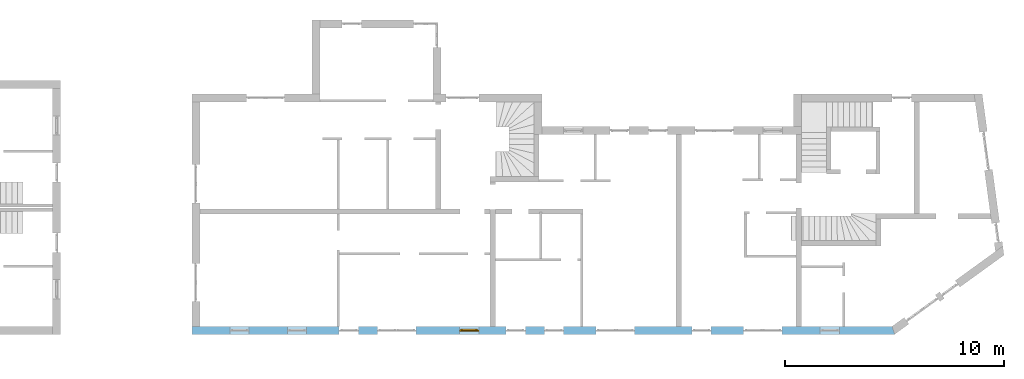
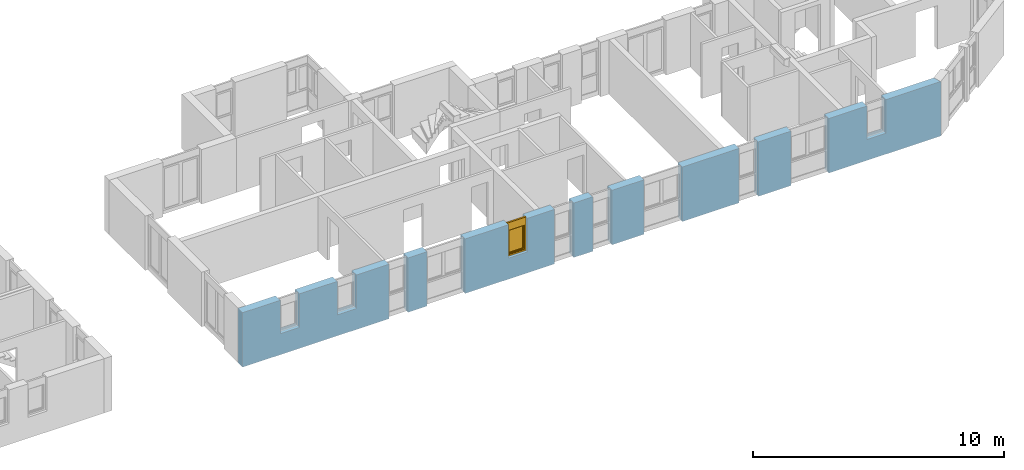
# One storey, part 30 of 42: 1 window, 11 openings, plus 1 element that does not belong to this part.
"""IFC2X3 building model written with IfcOpenShell, lengths in millimetres."""

from ifc_helpers import new_model, entity, si_unit, converted_unit, frame, frame_2d, origin, origin_with_axes, place, context, subcontext, project, spatial, polyline, rectangle, outline, extrude, faceted_brep, material, layer, layer_set, layer_usage, type_object, element, fill, save


model = new_model("IFC2X3")

# Units and contexts
model_context = context("Model", 3, precision=1e-05, world=origin())
body_context = subcontext(model_context, "Body", "Model", "MODEL_VIEW")
ifc_project = project(units=[si_unit("LENGTHUNIT", "METRE", prefix="MILLI"), converted_unit("PLANEANGLEUNIT", "DEGREE", entity("IfcPlaneAngleMeasure", 0.0174532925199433), si_unit("PLANEANGLEUNIT", "RADIAN"), dimensions=[0, 0, 0, 0, 0, 0, 0]), si_unit("AREAUNIT", "SQUARE_METRE"), si_unit("VOLUMEUNIT", "CUBIC_METRE")], contexts=[model_context])

# Building, storey
building_placement = place(None, origin())
building = spatial("IfcBuilding", under=ifc_project, at=building_placement, Name="Gebäude", CompositionType="ELEMENT")
storey_placement = place(building_placement, frame((0.0, 0.0, 2730.0), z_axis=(0.0, 0.0, 1.0), x_axis=(1.0, 0.0, 0.0)))
storey = spatial("IfcBuildingStorey", under=building, at=storey_placement, Name="OG.- Grundriss", CompositionType="ELEMENT", Elevation=2730.0)

# Wall, openings, window
ifc_material_1 = material(Name="Poroton")
ifc_layer = layer(ifc_material_1, 365.0000000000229)
ifc_layer_set = layer_set([ifc_layer])
ifc_layer_usage = layer_usage(ifc_layer_set, "AXIS2", "POSITIVE", 0.0)
wall_placement = place(storey_placement, frame((148357.7928067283, 125274.8877324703, 0.0), z_axis=(0.0, 0.0, 1.0), x_axis=(1.0, -2.749268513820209e-11, 0.0)))
wall = element("IfcWallStandardCase", 1, at=wall_placement, inside=storey, material=ifc_layer_usage, Name="<Unnamed Element>", context=body_context, shape_type="SweptSolid", body=[
    extrude(outline(polyline([(0.0, 0.0), (32144.99999877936, 0.0), (32026.74038666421, 365.0000000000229), (-1.003483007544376e-08, 365.0), (0.0, 0.0)])), origin_with_axes(), (0.0, 0.0, 1.0), 2650.0),
])
opening_1_placement = place(wall_placement, frame((22865.29648749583, -9.393166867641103e-11, 0.0), z_axis=(0.0, 1.0, 0.0), x_axis=(0.0, 0.0, 1.0)))
element("IfcOpeningElement", 2, at=opening_1_placement, cuts=wall, Name="Fensteröffnung", ObjectType="Opening", context=body_context, shape_type="SweptSolid", body=[
    extrude(rectangle(XDim=2650.0, YDim=885.0, at=frame_2d((1325.0, 442.5), x_axis=(1.0, 0.0))), origin_with_axes(), (0.0, 0.0, 1.0), 365.0000000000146),
])
opening_2_placement = place(wall_placement, frame((25240.29648749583, -1.030266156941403e-10, 0.0), z_axis=(0.0, 1.0, 0.0), x_axis=(0.0, 0.0, 1.0)))
element("IfcOpeningElement", 3, at=opening_2_placement, cuts=wall, Name="Fensteröffnung", ObjectType="Opening", context=body_context, shape_type="SweptSolid", body=[
    extrude(rectangle(XDim=2650.0, YDim=1760.0, at=frame_2d((1325.0, 880.0), x_axis=(1.0, 0.0))), origin_with_axes(), (0.0, 0.0, 1.0), 365.0000000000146),
])
opening_3_placement = place(wall_placement, frame((14365.26291869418, -5.847463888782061e-11, 0.0), z_axis=(0.0, 1.0, 0.0), x_axis=(0.0, 0.0, 1.0)))
element("IfcOpeningElement", 4, at=opening_3_placement, cuts=wall, Name="Fensteröffnung", ObjectType="Opening", context=body_context, shape_type="SweptSolid", body=[
    extrude(rectangle(XDim=2650.0, YDim=885.0, at=frame_2d((1325.0, 442.5), x_axis=(1.0, 0.0))), origin_with_axes(), (0.0, 0.0, 1.0), 365.0000000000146),
])
opening_4_placement = place(wall_placement, frame((16123.92212975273, -7.146586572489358e-11, 0.0), z_axis=(0.0, 1.0, 0.0), x_axis=(0.0, 0.0, 1.0)))
element("IfcOpeningElement", 5, at=opening_4_placement, cuts=wall, Name="Fensteröffnung", ObjectType="Opening", context=body_context, shape_type="SweptSolid", body=[
    extrude(rectangle(XDim=2650.0, YDim=885.0, at=frame_2d((1325.0, 442.5), x_axis=(1.0, 0.0))), origin_with_axes(), (0.0, 0.0, 1.0), 365.0000000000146),
])
opening_5_placement = place(wall_placement, frame((6739.999999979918, -3.114109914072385e-11, 0.0), z_axis=(0.0, 1.0, 0.0), x_axis=(0.0, 0.0, 1.0)))
element("IfcOpeningElement", 6, at=opening_5_placement, cuts=wall, Name="Fensteröffnung", ObjectType="Opening", context=body_context, shape_type="SweptSolid", body=[
    extrude(rectangle(XDim=2650.0, YDim=885.0, at=frame_2d((1325.0, 442.5), x_axis=(1.0, 0.0))), origin_with_axes(), (0.0, 0.0, 1.0), 365.0000000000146),
])
opening_6_placement = place(wall_placement, frame((8489.999999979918, -3.477907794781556e-11, 0.0), z_axis=(0.0, 1.0, 0.0), x_axis=(0.0, 0.0, 1.0)))
element("IfcOpeningElement", 7, at=opening_6_placement, cuts=wall, Name="Fensteröffnung", ObjectType="Opening", context=body_context, shape_type="SweptSolid", body=[
    extrude(rectangle(XDim=2650.0, YDim=1760.0, at=frame_2d((1325.0, 880.0), x_axis=(1.0, 0.0))), origin_with_axes(), (0.0, 0.0, 1.0), 365.0000000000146),
])
opening_7_placement = place(wall_placement, frame((1740.0, -3.114109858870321e-11, 1020.0), z_axis=(0.0, 1.0, 0.0), x_axis=(0.0, 0.0, 1.0)))
element("IfcOpeningElement", 8, at=opening_7_placement, cuts=wall, Name="Fensteröffnung", ObjectType="Opening", context=body_context, shape_type="SweptSolid", body=[
    extrude(rectangle(XDim=1630.0, YDim=885.0, at=frame_2d((815.0, 442.5), x_axis=(1.0, 0.0))), origin_with_axes(), (0.0, 0.0, 1.0), 365.0000000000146),
])
opening_8_placement = place(wall_placement, frame((4365.0, -7.494236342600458e-12, 1020.0), z_axis=(0.0, 1.0, 0.0), x_axis=(0.0, 0.0, 1.0)))
element("IfcOpeningElement", 9, at=opening_8_placement, cuts=wall, Name="Fensteröffnung", ObjectType="Opening", context=body_context, shape_type="SweptSolid", body=[
    extrude(rectangle(XDim=1630.0, YDim=885.0, at=frame_2d((815.0, 442.5), x_axis=(1.0, 0.0))), origin_with_axes(), (0.0, 0.0, 1.0), 365.0000000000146),
])
opening_9_placement = place(wall_placement, frame((12240.0, -5.296897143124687e-11, 1020.0), z_axis=(0.0, 1.0, 0.0), x_axis=(0.0, 0.0, 1.0)))
opening_9 = element("IfcOpeningElement", 10, at=opening_9_placement, cuts=wall, Name="Fensteröffnung", ObjectType="Opening", context=body_context, shape_type="SweptSolid", body=[
    extrude(rectangle(XDim=1630.0, YDim=885.0, at=frame_2d((815.0, 442.5), x_axis=(1.0, 0.0))), origin_with_axes(), (0.0, 0.0, 1.0), 365.0000000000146),
])
opening_10_placement = place(wall_placement, frame((18490.51063065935, -4.984640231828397e-11, 0.0), z_axis=(0.0, 1.0, 0.0), x_axis=(0.0, 0.0, 1.0)))
element("IfcOpeningElement", 11, at=opening_10_placement, cuts=wall, Name="Fensteröffnung", ObjectType="Opening", context=body_context, shape_type="SweptSolid", body=[
    extrude(rectangle(XDim=2650.0, YDim=1760.0, at=frame_2d((1325.0, 880.0), x_axis=(1.0, 0.0))), origin_with_axes(), (0.0, 0.0, 1.0), 365.0000000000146),
])
opening_11_placement = place(wall_placement, frame((28740.29648749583, -1.103025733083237e-10, 1020.0), z_axis=(0.0, 1.0, 0.0), x_axis=(0.0, 0.0, 1.0)))
element("IfcOpeningElement", 12, at=opening_11_placement, cuts=wall, Name="Fensteröffnung", ObjectType="Opening", context=body_context, shape_type="SweptSolid", body=[
    extrude(rectangle(XDim=1630.0, YDim=885.0, at=frame_2d((815.0, 442.5), x_axis=(1.0, 0.0))), origin_with_axes(), (0.0, 0.0, 1.0), 365.0000000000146),
])
ifc_material_2 = material()
window_style = type_object("IfcWindowStyle", Name="Fenster", ConstructionType="NOTDEFINED", OperationType="USERDEFINED", ParameterTakesPrecedence=False, Sizeable=False)
window_placement = place(opening_9_placement, frame((0.0, 0.0, 0.0), z_axis=(1.0, 0.0, 0.0), x_axis=(0.0, 1.0, 0.0)))
window = element("IfcWindow", 13, at=window_placement, inside=storey, type_object=window_style, material=ifc_material_2, Name="Fenster", OverallHeight=1630.0, OverallWidth=885.0, context=body_context, shape_type="Brep", body=[
    faceted_brep([(-1.221113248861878e-08, 200.000000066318, 1630.0), (-1.221113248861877e-08, 200.0000000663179, -2.449293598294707e-15), (69.99999998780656, 200.0000000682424, -2.449293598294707e-15), (69.99999998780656, 200.0000000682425, 1630.0), (-1.001171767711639e-08, 120.0000000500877, 2.449293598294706e-15), (-1.00117176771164e-08, 120.0000000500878, 1630.0), (69.99999999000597, 120.0000000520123, 1630.0), (69.99999999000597, 120.0000000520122, 2.449293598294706e-15), (-1.221113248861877e-08, 200.0000000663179, -2.449293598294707e-15), (-1.221113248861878e-08, 200.000000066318, 1630.0), (-1.00117176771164e-08, 120.0000000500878, 1630.0), (-1.001171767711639e-08, 120.0000000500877, 2.449293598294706e-15), (69.99999998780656, 200.0000000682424, -2.449293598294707e-15), (-1.221113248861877e-08, 200.0000000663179, -2.449293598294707e-15), (-1.001171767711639e-08, 120.0000000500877, 2.449293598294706e-15), (69.99999999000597, 120.0000000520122, 2.449293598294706e-15), (69.99999998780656, 200.0000000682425, 1630.0), (69.99999998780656, 200.0000000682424, -2.449293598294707e-15), (69.99999999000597, 120.0000000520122, 2.449293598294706e-15), (69.99999999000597, 120.0000000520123, 1630.0), (-1.221113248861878e-08, 200.000000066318, 1630.0), (69.99999998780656, 200.0000000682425, 1630.0), (69.99999999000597, 120.0000000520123, 1630.0), (-1.00117176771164e-08, 120.0000000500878, 1630.0)], [[[0, 1, 2, 3]], [[4, 5, 6, 7]], [[8, 9, 10, 11]], [[12, 13, 14, 15]], [[16, 17, 18, 19]], [[20, 21, 22, 23]]], orient=[[False], [False], [False], [False], [False], [False]]),
    faceted_brep([(814.9999999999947, 200.0000000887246, 1630.0), (814.9999999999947, 200.0000000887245, -2.449293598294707e-15), (885.0000000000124, 200.0000000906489, -2.449293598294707e-15), (885.0000000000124, 200.0000000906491, 1630.0), (815.000000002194, 120.0000000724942, 2.449293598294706e-15), (815.000000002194, 120.0000000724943, 1630.0), (885.0000000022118, 120.0000000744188, 1630.0), (885.0000000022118, 120.0000000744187, 2.449293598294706e-15), (814.9999999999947, 200.0000000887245, -2.449293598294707e-15), (814.9999999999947, 200.0000000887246, 1630.0), (815.000000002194, 120.0000000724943, 1630.0), (815.000000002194, 120.0000000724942, 2.449293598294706e-15), (885.0000000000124, 200.0000000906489, -2.449293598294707e-15), (814.9999999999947, 200.0000000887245, -2.449293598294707e-15), (815.000000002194, 120.0000000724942, 2.449293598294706e-15), (885.0000000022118, 120.0000000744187, 2.449293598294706e-15), (885.0000000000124, 200.0000000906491, 1630.0), (885.0000000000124, 200.0000000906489, -2.449293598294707e-15), (885.0000000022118, 120.0000000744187, 2.449293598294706e-15), (885.0000000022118, 120.0000000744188, 1630.0), (814.9999999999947, 200.0000000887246, 1630.0), (885.0000000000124, 200.0000000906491, 1630.0), (885.0000000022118, 120.0000000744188, 1630.0), (815.000000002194, 120.0000000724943, 1630.0)], [[[0, 1, 2, 3]], [[4, 5, 6, 7]], [[8, 9, 10, 11]], [[12, 13, 14, 15]], [[16, 17, 18, 19]], [[20, 21, 22, 23]]], orient=[[False], [False], [False], [False], [False], [False]]),
    faceted_brep([(69.99999998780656, 200.0000000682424, 69.99999999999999), (69.99999998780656, 200.0000000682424, -2.449293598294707e-15), (814.9999999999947, 200.0000000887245, -2.449293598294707e-15), (814.9999999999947, 200.0000000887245, 69.99999999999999), (69.99999999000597, 120.0000000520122, 2.449293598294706e-15), (69.99999999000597, 120.0000000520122, 69.99999999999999), (815.000000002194, 120.0000000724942, 69.99999999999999), (815.000000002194, 120.0000000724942, 2.449293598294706e-15), (69.99999998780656, 200.0000000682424, -2.449293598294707e-15), (69.99999998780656, 200.0000000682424, 69.99999999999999), (69.99999999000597, 120.0000000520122, 69.99999999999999), (69.99999999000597, 120.0000000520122, 2.449293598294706e-15), (814.9999999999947, 200.0000000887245, -2.449293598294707e-15), (69.99999998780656, 200.0000000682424, -2.449293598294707e-15), (69.99999999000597, 120.0000000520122, 2.449293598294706e-15), (815.000000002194, 120.0000000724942, 2.449293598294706e-15), (814.9999999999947, 200.0000000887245, 69.99999999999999), (814.9999999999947, 200.0000000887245, -2.449293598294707e-15), (815.000000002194, 120.0000000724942, 2.449293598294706e-15), (815.000000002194, 120.0000000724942, 69.99999999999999), (69.99999998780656, 200.0000000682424, 69.99999999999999), (814.9999999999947, 200.0000000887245, 69.99999999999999), (815.000000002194, 120.0000000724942, 69.99999999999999), (69.99999999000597, 120.0000000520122, 69.99999999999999)], [[[0, 1, 2, 3]], [[4, 5, 6, 7]], [[8, 9, 10, 11]], [[12, 13, 14, 15]], [[16, 17, 18, 19]], [[20, 21, 22, 23]]], orient=[[False], [False], [False], [False], [False], [False]]),
    faceted_brep([(69.99999998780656, 200.0000000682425, 1630.0), (69.99999998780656, 200.0000000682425, 1260.0), (814.9999999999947, 200.0000000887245, 1260.0), (814.9999999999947, 200.0000000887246, 1630.0), (69.99999999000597, 120.0000000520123, 1260.0), (69.99999999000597, 120.0000000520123, 1630.0), (815.000000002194, 120.0000000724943, 1630.0), (815.000000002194, 120.0000000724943, 1260.0), (69.99999998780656, 200.0000000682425, 1260.0), (69.99999998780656, 200.0000000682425, 1630.0), (69.99999999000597, 120.0000000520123, 1630.0), (69.99999999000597, 120.0000000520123, 1260.0), (814.9999999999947, 200.0000000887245, 1260.0), (69.99999998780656, 200.0000000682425, 1260.0), (69.99999999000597, 120.0000000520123, 1260.0), (815.000000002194, 120.0000000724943, 1260.0), (814.9999999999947, 200.0000000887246, 1630.0), (814.9999999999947, 200.0000000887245, 1260.0), (815.000000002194, 120.0000000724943, 1260.0), (815.000000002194, 120.0000000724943, 1630.0), (69.99999998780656, 200.0000000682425, 1630.0), (814.9999999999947, 200.0000000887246, 1630.0), (815.000000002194, 120.0000000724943, 1630.0), (69.99999999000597, 120.0000000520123, 1630.0)], [[[0, 1, 2, 3]], [[4, 5, 6, 7]], [[8, 9, 10, 11]], [[12, 13, 14, 15]], [[16, 17, 18, 19]], [[20, 21, 22, 23]]], orient=[[False], [False], [False], [False], [False], [False]]),
    faceted_brep([(49.9999999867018, 240.0000000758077, 1280.0), (49.9999999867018, 240.0000000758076, 49.99999999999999), (119.9999999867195, 240.0000000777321, 49.99999999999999), (119.9999999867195, 240.0000000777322, 1280.0), (49.99999998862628, 170.0000000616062, 50.0), (49.99999998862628, 170.0000000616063, 1280.0), (119.999999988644, 170.0000000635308, 1280.0), (119.999999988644, 170.0000000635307, 50.0), (49.9999999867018, 240.0000000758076, 49.99999999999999), (49.9999999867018, 240.0000000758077, 1280.0), (49.99999998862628, 170.0000000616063, 1280.0), (49.99999998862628, 170.0000000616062, 50.0), (119.9999999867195, 240.0000000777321, 49.99999999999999), (49.9999999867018, 240.0000000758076, 49.99999999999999), (49.99999998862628, 170.0000000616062, 50.0), (119.999999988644, 170.0000000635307, 50.0), (119.9999999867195, 240.0000000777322, 1280.0), (119.9999999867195, 240.0000000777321, 49.99999999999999), (119.999999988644, 170.0000000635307, 50.0), (119.999999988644, 170.0000000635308, 1280.0), (49.9999999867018, 240.0000000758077, 1280.0), (119.9999999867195, 240.0000000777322, 1280.0), (119.999999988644, 170.0000000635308, 1280.0), (49.99999998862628, 170.0000000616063, 1280.0)], [[[0, 1, 2, 3]], [[4, 5, 6, 7]], [[8, 9, 10, 11]], [[12, 13, 14, 15]], [[16, 17, 18, 19]], [[20, 21, 22, 23]]], orient=[[False], [False], [False], [False], [False], [False]]),
    faceted_brep([(764.9999999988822, 240.000000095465, 1280.0), (764.9999999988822, 240.0000000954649, 49.99999999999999), (834.9999999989, 240.0000000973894, 49.99999999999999), (834.9999999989, 240.0000000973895, 1280.0), (765.0000000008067, 170.0000000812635, 50.0), (765.0000000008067, 170.0000000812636, 1280.0), (835.0000000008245, 170.000000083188, 1280.0), (835.0000000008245, 170.000000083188, 50.0), (764.9999999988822, 240.0000000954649, 49.99999999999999), (764.9999999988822, 240.000000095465, 1280.0), (765.0000000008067, 170.0000000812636, 1280.0), (765.0000000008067, 170.0000000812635, 50.0), (834.9999999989, 240.0000000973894, 49.99999999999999), (764.9999999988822, 240.0000000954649, 49.99999999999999), (765.0000000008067, 170.0000000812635, 50.0), (835.0000000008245, 170.000000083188, 50.0), (834.9999999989, 240.0000000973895, 1280.0), (834.9999999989, 240.0000000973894, 49.99999999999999), (835.0000000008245, 170.000000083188, 50.0), (835.0000000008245, 170.000000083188, 1280.0), (764.9999999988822, 240.000000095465, 1280.0), (834.9999999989, 240.0000000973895, 1280.0), (835.0000000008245, 170.000000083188, 1280.0), (765.0000000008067, 170.0000000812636, 1280.0)], [[[0, 1, 2, 3]], [[4, 5, 6, 7]], [[8, 9, 10, 11]], [[12, 13, 14, 15]], [[16, 17, 18, 19]], [[20, 21, 22, 23]]], orient=[[False], [False], [False], [False], [False], [False]]),
    faceted_brep([(119.9999999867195, 240.0000000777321, 120.0), (119.9999999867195, 240.0000000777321, 49.99999999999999), (764.9999999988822, 240.0000000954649, 49.99999999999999), (764.9999999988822, 240.0000000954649, 120.0), (119.999999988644, 170.0000000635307, 50.0), (119.999999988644, 170.0000000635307, 120.0), (765.0000000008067, 170.0000000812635, 120.0), (765.0000000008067, 170.0000000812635, 50.0), (119.9999999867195, 240.0000000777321, 49.99999999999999), (119.9999999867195, 240.0000000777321, 120.0), (119.999999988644, 170.0000000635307, 120.0), (119.999999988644, 170.0000000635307, 50.0), (764.9999999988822, 240.0000000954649, 49.99999999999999), (119.9999999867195, 240.0000000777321, 49.99999999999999), (119.999999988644, 170.0000000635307, 50.0), (765.0000000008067, 170.0000000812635, 50.0), (764.9999999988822, 240.0000000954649, 120.0), (764.9999999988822, 240.0000000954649, 49.99999999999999), (765.0000000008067, 170.0000000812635, 50.0), (765.0000000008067, 170.0000000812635, 120.0), (119.9999999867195, 240.0000000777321, 120.0), (764.9999999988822, 240.0000000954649, 120.0), (765.0000000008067, 170.0000000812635, 120.0), (119.999999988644, 170.0000000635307, 120.0)], [[[0, 1, 2, 3]], [[4, 5, 6, 7]], [[8, 9, 10, 11]], [[12, 13, 14, 15]], [[16, 17, 18, 19]], [[20, 21, 22, 23]]], orient=[[False], [False], [False], [False], [False], [False]]),
    faceted_brep([(119.9999999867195, 240.0000000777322, 1280.0), (119.9999999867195, 240.0000000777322, 1210.0), (764.9999999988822, 240.000000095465, 1210.0), (764.9999999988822, 240.000000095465, 1280.0), (119.999999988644, 170.0000000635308, 1210.0), (119.999999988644, 170.0000000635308, 1280.0), (765.0000000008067, 170.0000000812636, 1280.0), (765.0000000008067, 170.0000000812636, 1210.0), (119.9999999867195, 240.0000000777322, 1210.0), (119.9999999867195, 240.0000000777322, 1280.0), (119.999999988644, 170.0000000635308, 1280.0), (119.999999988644, 170.0000000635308, 1210.0), (764.9999999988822, 240.000000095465, 1210.0), (119.9999999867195, 240.0000000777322, 1210.0), (119.999999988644, 170.0000000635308, 1210.0), (765.0000000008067, 170.0000000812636, 1210.0), (764.9999999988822, 240.000000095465, 1280.0), (764.9999999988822, 240.000000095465, 1210.0), (765.0000000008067, 170.0000000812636, 1210.0), (765.0000000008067, 170.0000000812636, 1280.0), (119.9999999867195, 240.0000000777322, 1280.0), (764.9999999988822, 240.000000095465, 1280.0), (765.0000000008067, 170.0000000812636, 1280.0), (119.999999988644, 170.0000000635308, 1280.0)], [[[0, 1, 2, 3]], [[4, 5, 6, 7]], [[8, 9, 10, 11]], [[12, 13, 14, 15]], [[16, 17, 18, 19]], [[20, 21, 22, 23]]], orient=[[False], [False], [False], [False], [False], [False]]),
    faceted_brep([(119.9999999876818, 205.0000000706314, 120.0), (764.9999999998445, 205.0000000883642, 120.0), (764.9999999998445, 205.0000000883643, 1210.0), (119.9999999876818, 205.0000000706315, 1210.0), (119.9999999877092, 204.0000000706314, 120.0), (119.9999999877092, 204.0000000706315, 1210.0), (764.999999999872, 204.0000000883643, 1210.0), (764.999999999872, 204.0000000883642, 120.0), (119.9999999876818, 205.0000000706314, 120.0), (119.9999999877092, 204.0000000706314, 120.0), (764.999999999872, 204.0000000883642, 120.0), (764.9999999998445, 205.0000000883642, 120.0), (764.9999999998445, 205.0000000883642, 120.0), (764.999999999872, 204.0000000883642, 120.0), (764.999999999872, 204.0000000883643, 1210.0), (764.9999999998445, 205.0000000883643, 1210.0), (764.9999999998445, 205.0000000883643, 1210.0), (764.999999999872, 204.0000000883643, 1210.0), (119.9999999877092, 204.0000000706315, 1210.0), (119.9999999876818, 205.0000000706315, 1210.0), (119.9999999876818, 205.0000000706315, 1210.0), (119.9999999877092, 204.0000000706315, 1210.0), (119.9999999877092, 204.0000000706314, 120.0), (119.9999999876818, 205.0000000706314, 120.0)], [[[0, 1, 2, 3]], [[4, 5, 6, 7]], [[8, 9, 10, 11]], [[12, 13, 14, 15]], [[16, 17, 18, 19]], [[20, 21, 22, 23]]], orient=[[False], [False], [False], [False], [False], [False]]),
])
fill(opening_9, window)

save(model, "model.ifc")
